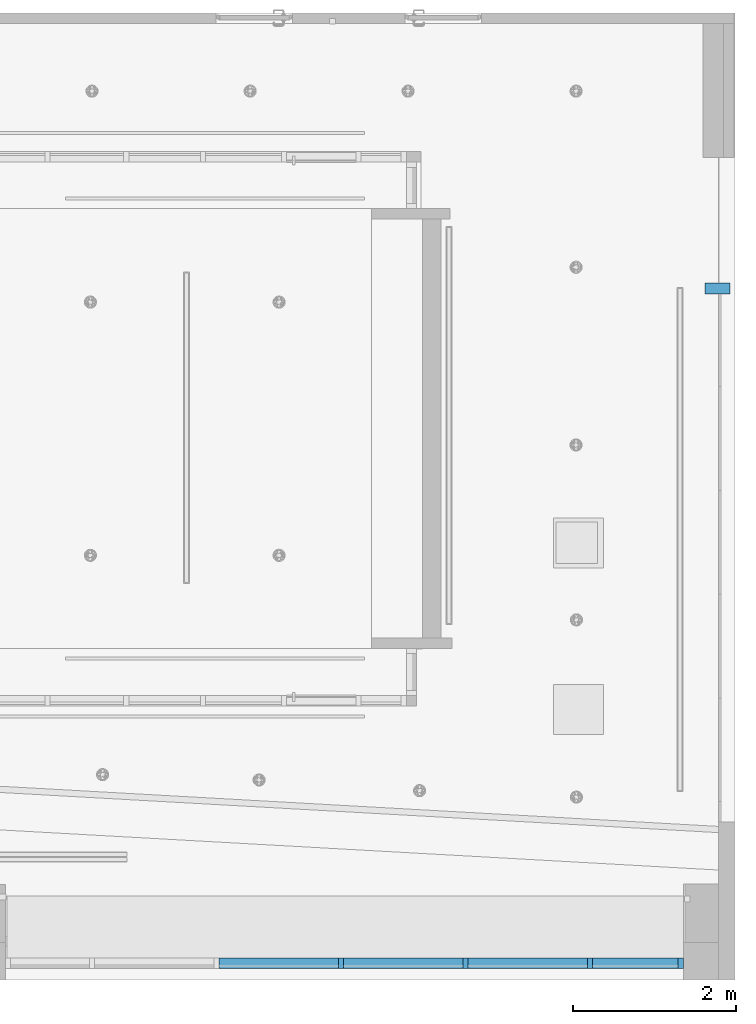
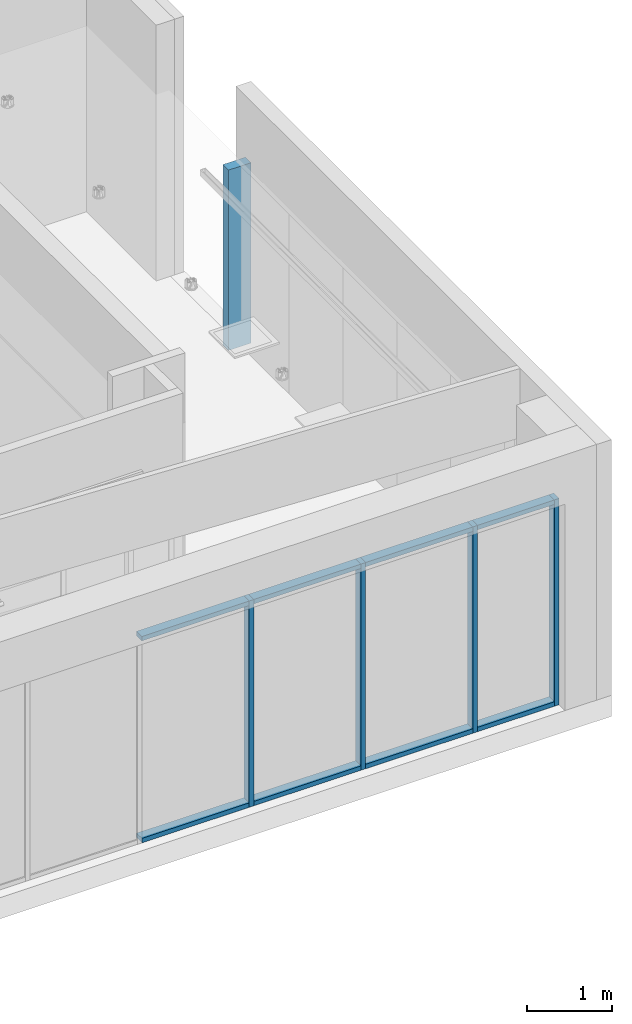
# One storey, part 3 of 108: 13 members, 2 elements without a shape of their own.
"""IFC4 building model written with IfcOpenShell, lengths in feet."""

from ifc_helpers import new_model, entity, si_unit, converted_unit, derived_unit, direction, frame, origin, origin_2d_with_axis, place, context, subcontext, project, spatial, rectangle, extrude, source, transform, mapped, material, material_profile, profile_set, profile_usage, type_object, type_shapes, element, aggregate, save


model = new_model("IFC4")

# Units and contexts
model_context = context("Model", 3, precision=0.0001, world=origin(), true_north=direction((6.12303176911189e-17, 1.0)))
body_context = subcontext(model_context, "Body", "Model", "MODEL_VIEW")
ifc_project = project(units=[converted_unit("LENGTHUNIT", "FOOT", entity("IfcRatioMeasure", 0.3048), si_unit("LENGTHUNIT", "METRE"), dimensions=[1, 0, 0, 0, 0, 0, 0]), converted_unit("AREAUNIT", "SQUARE FOOT", entity("IfcRatioMeasure", 0.09290304), si_unit("AREAUNIT", "SQUARE_METRE"), dimensions=[2, 0, 0, 0, 0, 0, 0]), converted_unit("VOLUMEUNIT", "CUBIC FOOT", entity("IfcRatioMeasure", 0.028316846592), si_unit("VOLUMEUNIT", "CUBIC_METRE"), dimensions=[3, 0, 0, 0, 0, 0, 0]), converted_unit("PLANEANGLEUNIT", "DEGREE", entity("IfcRatioMeasure", 0.0174532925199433), si_unit("PLANEANGLEUNIT", "RADIAN"), dimensions=[0, 0, 0, 0, 0, 0, 0]), si_unit("MASSUNIT", "GRAM", prefix="KILO"), derived_unit("MASSDENSITYUNIT", [(si_unit("MASSUNIT", "GRAM", prefix="KILO"), 1), (si_unit("LENGTHUNIT", "METRE"), -3)]), si_unit("TIMEUNIT", "SECOND"), si_unit("FREQUENCYUNIT", "HERTZ"), si_unit("THERMODYNAMICTEMPERATUREUNIT", "DEGREE_CELSIUS"), derived_unit("THERMALTRANSMITTANCEUNIT", [(si_unit("MASSUNIT", "GRAM", prefix="KILO"), 1), (si_unit("THERMODYNAMICTEMPERATUREUNIT", "KELVIN"), -1), (si_unit("TIMEUNIT", "SECOND"), -3)]), derived_unit("VOLUMETRICFLOWRATEUNIT", [(si_unit("LENGTHUNIT", "METRE"), 3), (si_unit("TIMEUNIT", "SECOND"), -1)]), si_unit("ELECTRICCURRENTUNIT", "AMPERE"), si_unit("ELECTRICVOLTAGEUNIT", "VOLT"), si_unit("POWERUNIT", "WATT"), si_unit("FORCEUNIT", "NEWTON"), si_unit("ILLUMINANCEUNIT", "LUX"), si_unit("LUMINOUSFLUXUNIT", "LUMEN"), si_unit("LUMINOUSINTENSITYUNIT", "CANDELA"), derived_unit("USERDEFINED", [(si_unit("MASSUNIT", "GRAM", prefix="KILO"), -1), (si_unit("LENGTHUNIT", "METRE"), -2), (si_unit("TIMEUNIT", "SECOND"), 3), (si_unit("LUMINOUSFLUXUNIT", "LUMEN"), 1)]), derived_unit("LINEARVELOCITYUNIT", [(si_unit("LENGTHUNIT", "METRE"), 1), (si_unit("TIMEUNIT", "SECOND"), -1)]), si_unit("PRESSUREUNIT", "PASCAL"), derived_unit("USERDEFINED", [(si_unit("LENGTHUNIT", "METRE"), -2), (si_unit("MASSUNIT", "GRAM", prefix="KILO"), 1), (si_unit("TIMEUNIT", "SECOND"), -2)])], contexts=[model_context])

# Site, building, storey
site_placement = place(None, origin())
site = spatial("IfcSite", under=ifc_project, at=site_placement, Name="Default", CompositionType="ELEMENT")
building_placement = place(site_placement, origin())
building = spatial("IfcBuilding", under=site, at=building_placement, CompositionType="ELEMENT")
storey_placement = place(building_placement, frame((0.0, 0.0, 168.0)))
storey = spatial("IfcBuildingStorey", under=building, at=storey_placement, Name="Level 15", CompositionType="ELEMENT", Elevation=168.0)

# Curtain wall, member
curtain_wall_type = type_object("IfcCurtainWallType", Name="Curtain Wall:Storefront", PredefinedType="NOTDEFINED")
curtain_wall_1_placement = place(storey_placement, frame((0.0, 0.0, -168.0)))
curtain_wall_1 = element("IfcCurtainWall", 1, at=curtain_wall_1_placement, inside=storey, type_object=curtain_wall_type, Name="Curtain Wall:Storefront", ObjectType="Curtain Wall:Storefront", PredefinedType="NOTDEFINED")
ifc_material = material(Name="Aluminum", Category="Metal")
ifc_material_profile_1 = material_profile(ifc_material, rectangle(XDim=1.0, YDim=0.4375, at=origin_2d_with_axis()), Name="2.5\" x 5\" rectangular 2")
ifc_profile_set_1 = profile_set([ifc_material_profile_1], Name="2.5\" x 5\" rectangular 2")
ifc_profile_usage_1 = profile_usage(ifc_profile_set_1)
member_type_1 = type_object("IfcMemberType", Name="2.5\" x 5\" rectangular 2", PredefinedType="MEMBER", material=ifc_profile_set_1)
shared_shape_1 = source(origin(), body_context, "Body", "SweptSolid", [
    extrude(rectangle(XDim=1.0, YDim=0.4375, at=origin_2d_with_axis()), frame((-0.21875, 0.0, -8.52282482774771), z_axis=(0.0, 0.0, 1.0), x_axis=(0.0, -1.0, 0.0)), (0.0, 0.0, 1.0), 8.52282482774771),
])
type_shapes(member_type_1, [shared_shape_1])
member_1_placement = place(storey_placement, frame((61.1712877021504, 4.90089763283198, 8.52282482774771), z_axis=(0.0, 0.0, 1.0), x_axis=(0.0, 1.0, 0.0)))
member_1 = element("IfcMember", 2, at=member_1_placement, type_object=member_type_1, material=ifc_profile_usage_1, Name="Rectangular Mullion:2.5\" x 5\" rectangular 2", ObjectType="Rectangular Mullion:2.5\" x 5\" rectangular 2", PredefinedType="MULLION", context=body_context, shape_type="MappedRepresentation", body=[
    mapped(shared_shape_1, transform((0.0, 0.0, 0.0), scale=1.0)),
])
aggregate(curtain_wall_1, [member_1])

# Curtain wall, members
curtain_wall_2_placement = place(storey_placement, frame((0.0, 0.0, -168.0)))
curtain_wall_2 = element("IfcCurtainWall", 3, at=curtain_wall_2_placement, inside=storey, type_object=curtain_wall_type, Name="Curtain Wall:Storefront", ObjectType="Curtain Wall:Storefront", PredefinedType="NOTDEFINED")
ifc_material_profile_2 = material_profile(ifc_material, rectangle(XDim=0.416666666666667, YDim=0.208333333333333, at=origin_2d_with_axis()), Name="2.5\" x 5\" rectangular")
ifc_profile_set_2 = profile_set([ifc_material_profile_2], Name="2.5\" x 5\" rectangular")
ifc_profile_usage_2 = profile_usage(ifc_profile_set_2)
member_type_2 = type_object("IfcMemberType", Name="2.5\" x 5\" rectangular", PredefinedType="MEMBER", material=ifc_profile_set_2)
shared_shape_2 = source(origin(), body_context, "Body", "SweptSolid", [
    extrude(rectangle(XDim=0.416666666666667, YDim=0.208333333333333, at=origin_2d_with_axis()), frame((-0.104166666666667, 0.0, -3.4375), z_axis=(0.0, 0.0, 1.0), x_axis=(0.0, -1.0, 0.0)), (0.0, 0.0, 1.0), 3.4375),
])
type_shapes(member_type_2, [shared_shape_2])
member_2_placement = place(storey_placement, frame((59.5926457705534, -22.4324357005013, 0.0), z_axis=(1.0, 0.0, 0.0), x_axis=(0.0, 0.0, -1.0)))
member_2 = element("IfcMember", 4, at=member_2_placement, type_object=member_type_2, material=ifc_profile_usage_2, Name="Rectangular Mullion:2.5\" x 5\" rectangular", ObjectType="Rectangular Mullion:2.5\" x 5\" rectangular", PredefinedType="MULLION", context=body_context, shape_type="MappedRepresentation", body=[
    mapped(shared_shape_2, transform((0.0, 0.0, 0.0), scale=1.0)),
])
ifc_profile_usage_3 = profile_usage(ifc_profile_set_2)
member_type_3 = type_object("IfcMemberType", Name="2.5\" x 5\" rectangular", PredefinedType="MEMBER", material=ifc_profile_set_2)
shared_shape_3 = source(origin(), body_context, "Body", "SweptSolid", [
    extrude(rectangle(XDim=0.416666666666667, YDim=0.208333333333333, at=origin_2d_with_axis()), frame((-0.104166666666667, 0.0, -9.74877040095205), z_axis=(0.0, 0.0, 1.0), x_axis=(0.0, -1.0, 0.0)), (0.0, 0.0, 1.0), 9.74877040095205),
])
type_shapes(member_type_3, [shared_shape_3])
member_3_placement = place(storey_placement, frame((59.8009791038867, -22.4324357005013, 9.74877040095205)))
member_3 = element("IfcMember", 5, at=member_3_placement, type_object=member_type_3, material=ifc_profile_usage_3, Name="Rectangular Mullion:2.5\" x 5\" rectangular", ObjectType="Rectangular Mullion:2.5\" x 5\" rectangular", PredefinedType="MULLION", context=body_context, shape_type="MappedRepresentation", body=[
    mapped(shared_shape_3, transform((0.0, 0.0, 0.0), scale=1.0)),
])
ifc_profile_usage_4 = profile_usage(ifc_profile_set_2)
member_type_4 = type_object("IfcMemberType", Name="2.5\" x 5\" rectangular", PredefinedType="MEMBER", material=ifc_profile_set_2)
shared_shape_4 = source(origin(), body_context, "Body", "SweptSolid", [
    extrude(rectangle(XDim=0.416666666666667, YDim=0.208333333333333, at=origin_2d_with_axis()), frame((-0.104166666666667, 0.0, -4.79166666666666), z_axis=(0.0, 0.0, 1.0), x_axis=(0.0, -1.0, 0.0)), (0.0, 0.0, 1.0), 4.79166666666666),
])
type_shapes(member_type_4, [shared_shape_4])
member_4_placement = place(storey_placement, frame((41.1551457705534, -22.4324357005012, 9.74877040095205), z_axis=(-1.0, 0.0, 0.0), x_axis=(0.0, 0.0, 1.0)))
member_4 = element("IfcMember", 6, at=member_4_placement, type_object=member_type_4, material=ifc_profile_usage_4, Name="Rectangular Mullion:2.5\" x 5\" rectangular", ObjectType="Rectangular Mullion:2.5\" x 5\" rectangular", PredefinedType="MULLION", context=body_context, shape_type="MappedRepresentation", body=[
    mapped(shared_shape_4, transform((0.0, 0.0, 0.0), scale=1.0)),
])
ifc_profile_usage_5 = profile_usage(ifc_profile_set_2)
member_5_placement = place(storey_placement, frame((46.1551457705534, -22.4324357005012, 9.74877040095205), z_axis=(-1.0, 0.0, 0.0), x_axis=(0.0, 0.0, 1.0)))
member_5 = element("IfcMember", 7, at=member_5_placement, type_object=member_type_4, material=ifc_profile_usage_5, Name="Rectangular Mullion:2.5\" x 5\" rectangular", ObjectType="Rectangular Mullion:2.5\" x 5\" rectangular", PredefinedType="MULLION", context=body_context, shape_type="MappedRepresentation", body=[
    mapped(shared_shape_4, transform((0.0, 0.0, 0.0), scale=1.0)),
])
ifc_profile_usage_6 = profile_usage(ifc_profile_set_2)
member_6_placement = place(storey_placement, frame((51.1551457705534, -22.4324357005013, 9.74877040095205), z_axis=(-1.0, 0.0, 0.0), x_axis=(0.0, 0.0, 1.0)))
member_6 = element("IfcMember", 8, at=member_6_placement, type_object=member_type_4, material=ifc_profile_usage_6, Name="Rectangular Mullion:2.5\" x 5\" rectangular", ObjectType="Rectangular Mullion:2.5\" x 5\" rectangular", PredefinedType="MULLION", context=body_context, shape_type="MappedRepresentation", body=[
    mapped(shared_shape_4, transform((0.0, 0.0, 0.0), scale=1.0)),
])
ifc_profile_usage_7 = profile_usage(ifc_profile_set_2)
member_type_5 = type_object("IfcMemberType", Name="2.5\" x 5\" rectangular", PredefinedType="MEMBER", material=ifc_profile_set_2)
shared_shape_5 = source(origin(), body_context, "Body", "SweptSolid", [
    extrude(rectangle(XDim=0.416666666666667, YDim=0.208333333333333, at=origin_2d_with_axis()), frame((-0.104166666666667, 0.0, -4.79166666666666), z_axis=(0.0, 0.0, 1.0), x_axis=(0.0, -1.0, 0.0)), (0.0, 0.0, 1.0), 4.79166666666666),
])
type_shapes(member_type_5, [shared_shape_5])
member_7_placement = place(storey_placement, frame((45.94681243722, -22.4324357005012, 0.0), z_axis=(1.0, 0.0, 0.0), x_axis=(0.0, 0.0, -1.0)))
member_7 = element("IfcMember", 9, at=member_7_placement, type_object=member_type_5, material=ifc_profile_usage_7, Name="Rectangular Mullion:2.5\" x 5\" rectangular", ObjectType="Rectangular Mullion:2.5\" x 5\" rectangular", PredefinedType="MULLION", context=body_context, shape_type="MappedRepresentation", body=[
    mapped(shared_shape_5, transform((0.0, 0.0, 0.0), scale=1.0)),
])
ifc_profile_usage_8 = profile_usage(ifc_profile_set_2)
member_8_placement = place(storey_placement, frame((50.94681243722, -22.4324357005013, 0.0), z_axis=(1.0, 0.0, 0.0), x_axis=(0.0, 0.0, -1.0)))
member_8 = element("IfcMember", 10, at=member_8_placement, type_object=member_type_5, material=ifc_profile_usage_8, Name="Rectangular Mullion:2.5\" x 5\" rectangular", ObjectType="Rectangular Mullion:2.5\" x 5\" rectangular", PredefinedType="MULLION", context=body_context, shape_type="MappedRepresentation", body=[
    mapped(shared_shape_5, transform((0.0, 0.0, 0.0), scale=1.0)),
])
ifc_profile_usage_9 = profile_usage(ifc_profile_set_2)
member_9_placement = place(storey_placement, frame((55.94681243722, -22.4324357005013, 0.0), z_axis=(1.0, 0.0, 0.0), x_axis=(0.0, 0.0, -1.0)))
member_9 = element("IfcMember", 11, at=member_9_placement, type_object=member_type_5, material=ifc_profile_usage_9, Name="Rectangular Mullion:2.5\" x 5\" rectangular", ObjectType="Rectangular Mullion:2.5\" x 5\" rectangular", PredefinedType="MULLION", context=body_context, shape_type="MappedRepresentation", body=[
    mapped(shared_shape_5, transform((0.0, 0.0, 0.0), scale=1.0)),
])
ifc_profile_usage_10 = profile_usage(ifc_profile_set_2)
member_type_6 = type_object("IfcMemberType", Name="2.5\" x 5\" rectangular", PredefinedType="MEMBER", material=ifc_profile_set_2)
shared_shape_6 = source(origin(), body_context, "Body", "SweptSolid", [
    extrude(rectangle(XDim=0.416666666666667, YDim=0.208333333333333, at=origin_2d_with_axis()), frame((0.0, 0.0, -9.74877040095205), z_axis=(0.0, 0.0, 1.0), x_axis=(0.0, -1.0, 0.0)), (0.0, 0.0, 1.0), 9.74877040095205),
])
type_shapes(member_type_6, [shared_shape_6])
member_10_placement = place(storey_placement, frame((46.0509791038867, -22.4324357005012, 0.0), z_axis=(0.0, 0.0, -1.0), x_axis=(-1.0, 0.0, 0.0)))
member_10 = element("IfcMember", 12, at=member_10_placement, type_object=member_type_6, material=ifc_profile_usage_10, Name="Rectangular Mullion:2.5\" x 5\" rectangular", ObjectType="Rectangular Mullion:2.5\" x 5\" rectangular", PredefinedType="MULLION", context=body_context, shape_type="MappedRepresentation", body=[
    mapped(shared_shape_6, transform((0.0, 0.0, 0.0), scale=1.0)),
])
ifc_profile_usage_11 = profile_usage(ifc_profile_set_2)
member_11_placement = place(storey_placement, frame((51.0509791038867, -22.4324357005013, 0.0), z_axis=(0.0, 0.0, -1.0), x_axis=(-1.0, 0.0, 0.0)))
member_11 = element("IfcMember", 13, at=member_11_placement, type_object=member_type_6, material=ifc_profile_usage_11, Name="Rectangular Mullion:2.5\" x 5\" rectangular", ObjectType="Rectangular Mullion:2.5\" x 5\" rectangular", PredefinedType="MULLION", context=body_context, shape_type="MappedRepresentation", body=[
    mapped(shared_shape_6, transform((0.0, 0.0, 0.0), scale=1.0)),
])
ifc_profile_usage_12 = profile_usage(ifc_profile_set_2)
member_12_placement = place(storey_placement, frame((56.0509791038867, -22.4324357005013, 0.0), z_axis=(0.0, 0.0, -1.0), x_axis=(-1.0, 0.0, 0.0)))
member_12 = element("IfcMember", 14, at=member_12_placement, type_object=member_type_6, material=ifc_profile_usage_12, Name="Rectangular Mullion:2.5\" x 5\" rectangular", ObjectType="Rectangular Mullion:2.5\" x 5\" rectangular", PredefinedType="MULLION", context=body_context, shape_type="MappedRepresentation", body=[
    mapped(shared_shape_6, transform((0.0, 0.0, 0.0), scale=1.0)),
])
ifc_profile_usage_13 = profile_usage(ifc_profile_set_2)
member_type_7 = type_object("IfcMemberType", Name="2.5\" x 5\" rectangular", PredefinedType="MEMBER", material=ifc_profile_set_2)
shared_shape_7 = source(origin(), body_context, "Body", "SweptSolid", [
    extrude(rectangle(XDim=0.416666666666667, YDim=0.208333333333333, at=origin_2d_with_axis()), frame((-0.104166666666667, 0.0, -3.4375), z_axis=(0.0, 0.0, 1.0), x_axis=(0.0, -1.0, 0.0)), (0.0, 0.0, 1.0), 3.4375),
])
type_shapes(member_type_7, [shared_shape_7])
member_13_placement = place(storey_placement, frame((56.1551457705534, -22.4324357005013, 9.74877040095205), z_axis=(-1.0, 0.0, 0.0), x_axis=(0.0, 0.0, 1.0)))
member_13 = element("IfcMember", 15, at=member_13_placement, type_object=member_type_7, material=ifc_profile_usage_13, Name="Rectangular Mullion:2.5\" x 5\" rectangular", ObjectType="Rectangular Mullion:2.5\" x 5\" rectangular", PredefinedType="MULLION", context=body_context, shape_type="MappedRepresentation", body=[
    mapped(shared_shape_7, transform((0.0, 0.0, 0.0), scale=1.0)),
])
aggregate(curtain_wall_2, [member_2, member_3, member_4, member_5, member_7, member_10, member_6, member_8, member_11, member_13, member_9, member_12])

save(model, "model.ifc")
